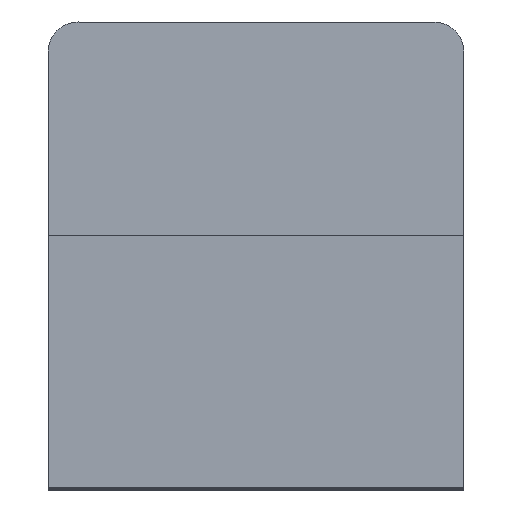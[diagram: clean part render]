
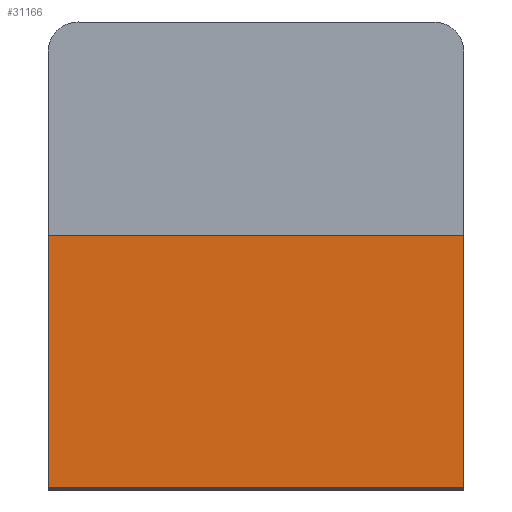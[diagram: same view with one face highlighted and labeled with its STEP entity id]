
A CAD part, top view. The second image highlights one B-rep face of the part: STEP entity #31166.
In plain terms, the highlighted planar face has unit normal (0, 0, 1).
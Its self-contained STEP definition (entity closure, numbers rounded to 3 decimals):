
#9652=DIRECTION('',(1.,0.,0.));
#9653=VECTOR('',#9652,16.5);
#9654=CARTESIAN_POINT('',(0.,10.,0.));
#9655=LINE('',#9654,#9653);
#9833=DIRECTION('',(0.,1.,0.));
#9834=VECTOR('',#9833,10.);
#9835=CARTESIAN_POINT('',(0.,0.,0.));
#9836=LINE('',#9835,#9834);
#9845=DIRECTION('',(-1.,0.,0.));
#9846=VECTOR('',#9845,16.5);
#9847=CARTESIAN_POINT('',(16.5,0.,0.));
#9848=LINE('',#9847,#9846);
#9861=DIRECTION('',(0.,-1.,0.));
#9862=VECTOR('',#9861,10.);
#9863=CARTESIAN_POINT('',(16.5,10.,0.));
#9864=LINE('',#9863,#9862);
#13992=CARTESIAN_POINT('',(0.,10.,0.));
#13993=CARTESIAN_POINT('',(16.5,10.,0.));
#13994=VERTEX_POINT('',#13992);
#13995=VERTEX_POINT('',#13993);
#13996=CARTESIAN_POINT('',(16.5,0.,0.));
#13997=VERTEX_POINT('',#13996);
#13998=CARTESIAN_POINT('',(0.,0.,0.));
#13999=VERTEX_POINT('',#13998);
#31155=CARTESIAN_POINT('',(8.25,0.,0.));
#31156=DIRECTION('',(0.,0.,1.));
#31157=DIRECTION('',(1.,0.,0.));
#31158=AXIS2_PLACEMENT_3D('',#31155,#31156,#31157);
#31159=PLANE('',#31158);
#31160=ORIENTED_EDGE('',*,*,#31123,.T.);
#31161=ORIENTED_EDGE('',*,*,#30817,.T.);
#31162=ORIENTED_EDGE('',*,*,#31150,.T.);
#31163=ORIENTED_EDGE('',*,*,#31137,.T.);
#31164=EDGE_LOOP('',(#31160,#31161,#31162,#31163));
#31165=FACE_OUTER_BOUND('',#31164,.F.);
#31166=ADVANCED_FACE('',(#31165),#31159,.T.);
#30817=EDGE_CURVE('',#13994,#13995,#9655,.T.);
#31123=EDGE_CURVE('',#13999,#13994,#9836,.T.);
#31137=EDGE_CURVE('',#13997,#13999,#9848,.T.);
#31150=EDGE_CURVE('',#13995,#13997,#9864,.T.);
